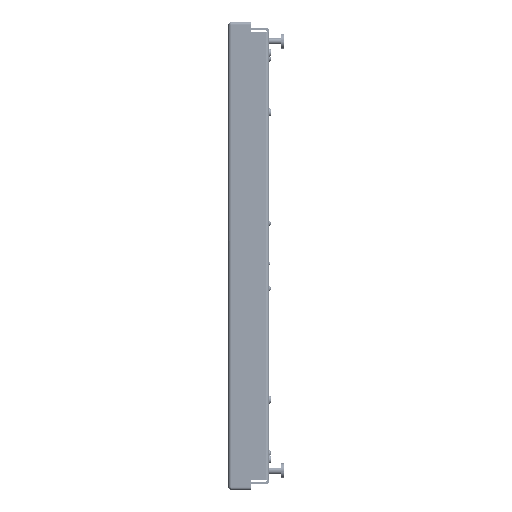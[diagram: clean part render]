
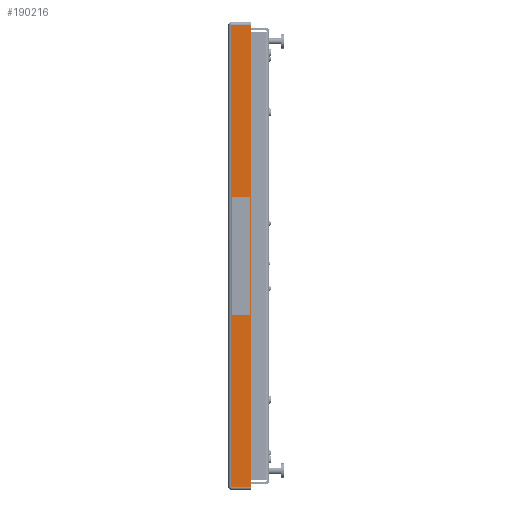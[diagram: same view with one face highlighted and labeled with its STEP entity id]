
A CAD part, left-side view. The second image highlights one B-rep face of the part: STEP entity #190216.
In plain terms, the highlighted planar face has unit normal (-1, 0, 0).
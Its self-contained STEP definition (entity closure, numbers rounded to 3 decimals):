
#9197 = CARTESIAN_POINT ( 'NONE',  ( -300., 26.437, -296.27 ) ) ;
#42546 = CARTESIAN_POINT ( 'NONE',  ( -300., 0., 0. ) ) ;
#43527 = EDGE_CURVE ( 'NONE', #375463, #83090, #145232, .T. ) ;
#43899 = PLANE ( 'NONE',  #52702 ) ;
#48849 = ORIENTED_EDGE ( 'NONE', *, *, #62638, .T. ) ;
#51150 = DIRECTION ( 'NONE',  ( 0., 1., 0. ) ) ;
#52702 = AXIS2_PLACEMENT_3D ( 'NONE', #42546, #74529, #298412 ) ;
#62638 = EDGE_CURVE ( 'NONE', #375463, #120443, #332448, .T. ) ;
#74529 = DIRECTION ( 'NONE',  ( 1., 0., 0. ) ) ;
#83090 = VERTEX_POINT ( 'NONE', #122549 ) ;
#94164 = DIRECTION ( 'NONE',  ( 0., 0., -1. ) ) ;
#96216 = EDGE_LOOP ( 'NONE', ( #232204, #48849, #372809, #280416 ) ) ;
#100096 = EDGE_CURVE ( 'NONE', #83090, #210726, #128408, .T. ) ;
#112969 = CARTESIAN_POINT ( 'NONE',  ( -300., 0.813, -300. ) ) ;
#119824 = DIRECTION ( 'NONE',  ( 0., 0., -1. ) ) ;
#120443 = VERTEX_POINT ( 'NONE', #341365 ) ;
#122549 = CARTESIAN_POINT ( 'NONE',  ( -300., 0.813, -296.27 ) ) ;
#128408 = LINE ( 'NONE', #301508, #316511 ) ;
#140059 = VECTOR ( 'NONE', #119824, 1000. ) ;
#145232 = LINE ( 'NONE', #112969, #140059 ) ;
#176697 = DIRECTION ( 'NONE',  ( 0., 1., 0. ) ) ;
#190216 = ADVANCED_FACE ( 'NONE', ( #388012 ), #43899, .F. ) ;
#210502 = CARTESIAN_POINT ( 'NONE',  ( -300., 26.437, 0. ) ) ;
#210726 = VERTEX_POINT ( 'NONE', #9197 ) ;
#232204 = ORIENTED_EDGE ( 'NONE', *, *, #43527, .F. ) ;
#270499 = EDGE_CURVE ( 'NONE', #120443, #210726, #382175, .T. ) ;
#280416 = ORIENTED_EDGE ( 'NONE', *, *, #100096, .F. ) ;
#298412 = DIRECTION ( 'NONE',  ( 0., 1., 0. ) ) ;
#301508 = CARTESIAN_POINT ( 'NONE',  ( -300., 0., -296.27 ) ) ;
#316511 = VECTOR ( 'NONE', #51150, 1000. ) ;
#322615 = VECTOR ( 'NONE', #94164, 1000. ) ;
#332448 = LINE ( 'NONE', #366244, #382066 ) ;
#341365 = CARTESIAN_POINT ( 'NONE',  ( -300., 26.437, 296.27 ) ) ;
#366244 = CARTESIAN_POINT ( 'NONE',  ( -300., 0., 296.27 ) ) ;
#370525 = CARTESIAN_POINT ( 'NONE',  ( -300., 0.813, 296.27 ) ) ;
#372809 = ORIENTED_EDGE ( 'NONE', *, *, #270499, .T. ) ;
#375463 = VERTEX_POINT ( 'NONE', #370525 ) ;
#382066 = VECTOR ( 'NONE', #176697, 1000. ) ;
#382175 = LINE ( 'NONE', #210502, #322615 ) ;
#388012 = FACE_OUTER_BOUND ( 'NONE', #96216, .T. ) ;
